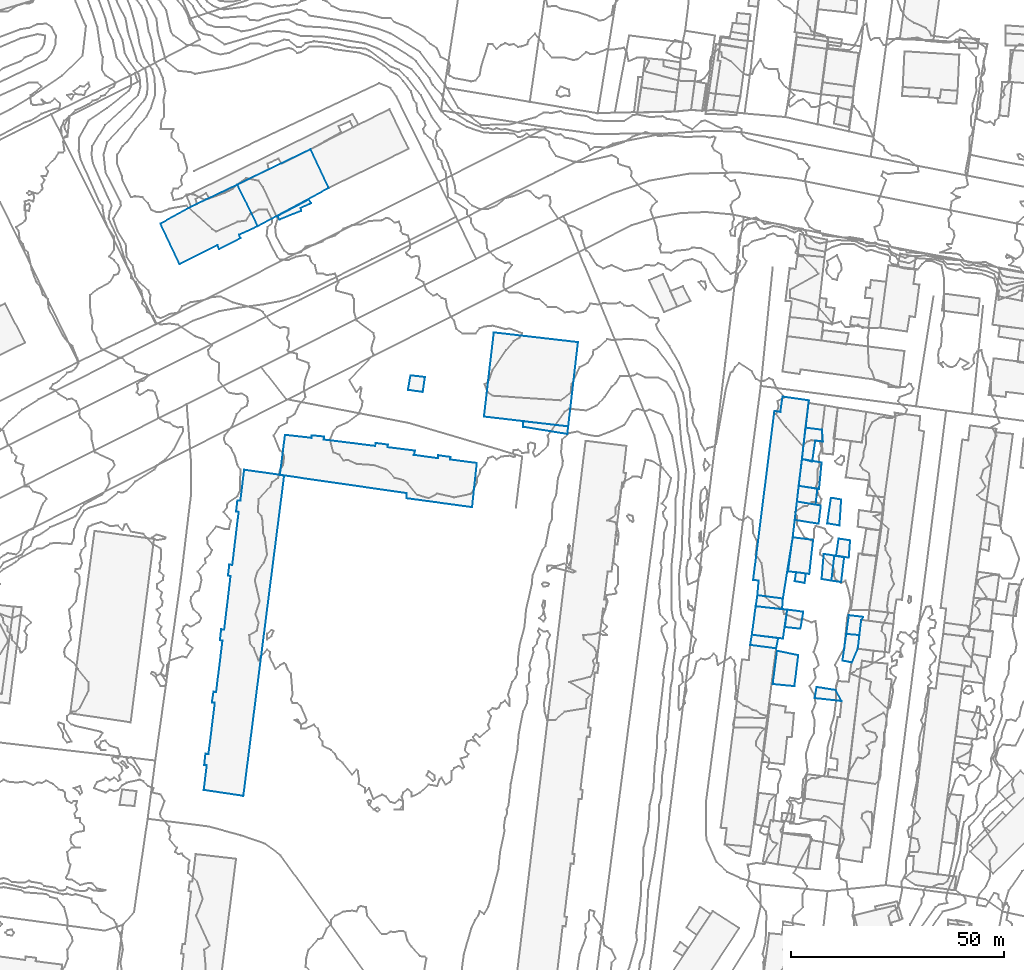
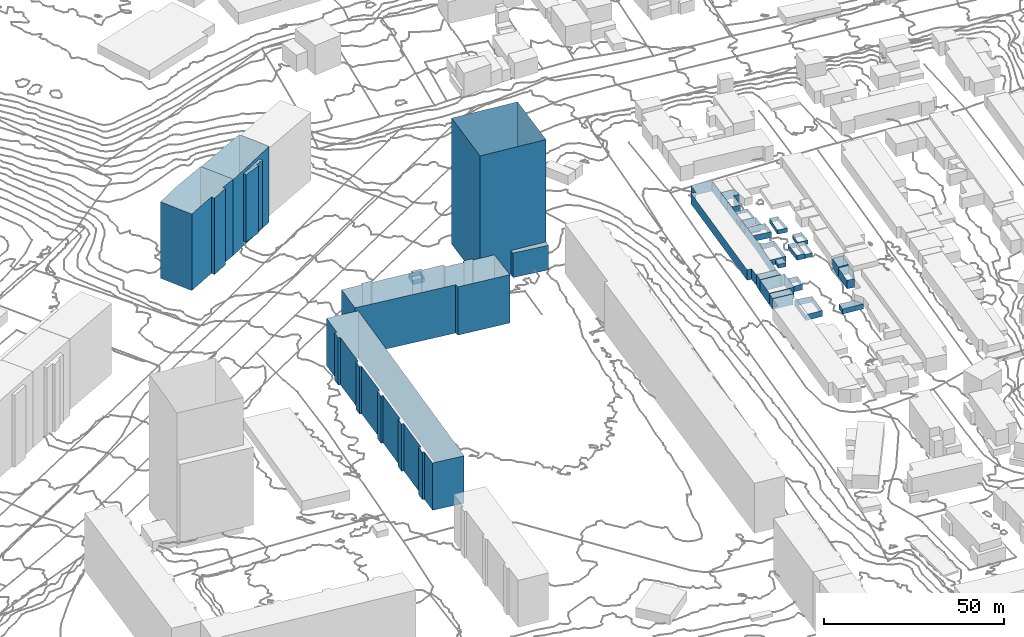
# Not in any storey, part 60 of 419: 27 walls.
"""IFC2X3 model written with IfcOpenShell, lengths in metres."""

from ifc_helpers import new_model, si_unit, frame, origin_with_axes, place, context, subcontext, project, faceted_brep, element, save


model = new_model("IFC2X3")

# Units and contexts
model_context = context("Model", 3, precision=1e-05, world=origin_with_axes())
body_context = subcontext(model_context, "Body", "Model", "MODEL_VIEW")
ifc_project = project(units=[si_unit("AREAUNIT", "SQUARE_METRE"), si_unit("LENGTHUNIT", "METRE")], contexts=[model_context])

# Walls
wall_1_placement = place(None, frame((496.0920204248, 787.9976909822, 36.4690006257), z_axis=(0.0, 0.0, 1.0), x_axis=(1.0, 0.0, 0.0)))
element("IfcWall", 1, at=wall_1_placement, Name="Mur 0", context=body_context, shape_type="Brep", body=[
    faceted_brep([(0.0, 0.0, 1.1309993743), (0.8, 6.3000000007, 1.1309993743), (0.0, 0.0, 0.0), (0.8, 6.3000000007, 0.0), (4.8, -0.6999999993, 1.1309993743), (4.8, -0.6999999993, 0.0), (5.4, 5.5, 1.1309993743), (5.4, 5.5, 0.0)], [[[0, 1, 2]], [[2, 1, 3]], [[4, 0, 5]], [[5, 0, 2]], [[1, 6, 3]], [[3, 6, 7]], [[6, 4, 7]], [[7, 4, 5]]]),
])
wall_2_placement = place(None, frame((373.5920204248, 851.4976909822, 36.4020008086), z_axis=(0.0, 0.0, 1.0), x_axis=(1.0, 0.0, 0.0)))
element("IfcWall", 2, at=wall_2_placement, Name="Mur 0", context=body_context, shape_type="Brep", body=[
    faceted_brep([(0.0, 0.0, 22.7979991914), (7.3, 3.9000000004, 22.7979991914), (0.0, 0.0, 0.0), (7.3, 3.9000000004, 0.0), (0.4, -0.7999999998, 22.7979991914), (0.4, -0.7999999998, 0.0), (5.5, 1.2000000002, 22.7979991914), (5.5, 1.2000000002, 0.0), (5.4, 1.9000000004, 22.7979991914), (5.4, 1.9000000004, 0.0), (7.8, 3.0, 22.7979991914), (7.8, 3.0, 0.0)], [[[0, 1, 2]], [[2, 1, 3]], [[4, 0, 5]], [[5, 0, 2]], [[6, 4, 7]], [[7, 4, 5]], [[8, 6, 9]], [[9, 6, 7]], [[1, 10, 3]], [[3, 10, 11]], [[10, 8, 11]], [[11, 8, 9]]]),
])
wall_3_placement = place(None, frame((502.7920204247, 779.1976909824, 37.2367999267), z_axis=(0.0, 0.0, 1.0), x_axis=(1.0, 0.0, 0.0)))
element("IfcWall", 3, at=wall_3_placement, Name="Mur 0", context=body_context, shape_type="Brep", body=[
    faceted_brep([(0.0, 0.0, 1.4632000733), (0.9, 6.0, 1.4632000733), (0.0, 0.0, 0.0), (0.9, 6.0, 0.0), (2.9, -0.5, 1.4632000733), (2.9, -0.5, 0.0), (3.3, 5.6000000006, 1.4632000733), (3.3, 5.6000000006, 0.0)], [[[0, 1, 2]], [[2, 1, 3]], [[4, 0, 5]], [[5, 0, 2]], [[1, 6, 3]], [[3, 6, 7]], [[6, 4, 7]], [[7, 4, 5]]]),
])
wall_4_placement = place(None, frame((503.7920204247, 765.6976909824, 36.9349994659), z_axis=(0.0, 0.0, 1.0), x_axis=(1.0, 0.0, 0.0)))
element("IfcWall", 4, at=wall_4_placement, Name="Mur 0", context=body_context, shape_type="Brep", body=[
    faceted_brep([(0.0, 0.0, 1.2650005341), (0.7000000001, 5.9000000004, 1.2650005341), (0.0, 0.0, 0.0), (0.7000000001, 5.9000000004, 0.0), (2.3, -0.2999999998, 1.2650005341), (2.3, -0.2999999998, 0.0), (3.0, 5.5, 1.2650005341), (3.0, 5.5, 0.0)], [[[0, 1, 2]], [[2, 1, 3]], [[4, 0, 5]], [[5, 0, 2]], [[1, 6, 3]], [[3, 6, 7]], [[6, 4, 7]], [[7, 4, 5]]]),
])
wall_5_placement = place(None, frame((495.6920204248, 784.2976909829, 36.4690006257), z_axis=(0.0, 0.0, 1.0), x_axis=(1.0, 0.0, 0.0)))
element("IfcWall", 5, at=wall_5_placement, Name="Mur 0", context=body_context, shape_type="Brep", body=[
    faceted_brep([(0.0, 0.0, 2.4309993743), (0.4, 3.6999999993, 2.4309993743), (0.0, 0.0, 0.0), (0.4, 3.6999999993, 0.0), (4.4, -0.7000000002, 2.4309993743), (4.4, -0.7000000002, 0.0), (4.8, 3.0, 2.4309993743), (4.8, 3.0, 0.0)], [[[0, 1, 2]], [[2, 1, 3]], [[4, 0, 5]], [[5, 0, 2]], [[1, 6, 3]], [[3, 6, 7]], [[6, 4, 7]], [[7, 4, 5]]]),
])
wall_6_placement = place(None, frame((507.2920204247, 753.1976909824, 37.0859994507), z_axis=(0.0, 0.0, 1.0), x_axis=(1.0, 0.0, 0.0)))
element("IfcWall", 6, at=wall_6_placement, Name="Mur 0", context=body_context, shape_type="Brep", body=[
    faceted_brep([(4.0, 4.0, 3.3140005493), (3.5, 3.2999999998, 3.3140005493), (4.0, 4.0, 0.0), (3.5, 3.2999999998, 0.0), (0.6000000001, 4.4000000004, 3.3140005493), (0.6000000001, 4.4000000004, 0.0), (0.0, 0.0, 3.3140005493), (0.0, 0.0, 0.0), (3.1000000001, -0.2999999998, 3.3140005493), (3.1000000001, -0.2999999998, 0.0)], [[[0, 1, 2]], [[2, 1, 3]], [[4, 0, 5]], [[5, 0, 2]], [[6, 4, 7]], [[7, 4, 5]], [[1, 8, 3]], [[3, 8, 9]], [[8, 6, 9]], [[9, 6, 7]]]),
])
wall_7_placement = place(None, frame((492.8920204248, 754.7976909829, 35.7219993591), z_axis=(0.0, 0.0, 1.0), x_axis=(1.0, 0.0, 0.0)))
element("IfcWall", 7, at=wall_7_placement, Name="Mur 0", context=body_context, shape_type="Brep", body=[
    faceted_brep([(3.6, -0.4000000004, 1.8780006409), (0.0, 0.0, 1.8780006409), (3.6, -0.4000000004, 0.0), (0.0, 0.0, 0.0), (4.2999999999, 3.5999999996, 1.8780006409), (4.2999999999, 3.5999999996, 0.0), (0.5, 4.0999999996, 1.8780006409), (0.5, 4.0999999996, 0.0)], [[[0, 1, 2]], [[2, 1, 3]], [[4, 0, 5]], [[5, 0, 2]], [[1, 6, 3]], [[3, 6, 7]], [[6, 4, 7]], [[7, 4, 5]]]),
])
wall_8_placement = place(None, frame((495.1920204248, 779.9976909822, 36.8950008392), z_axis=(0.0, 0.0, 1.0), x_axis=(1.0, 0.0, 0.0)))
element("IfcWall", 8, at=wall_8_placement, Name="Mur 0", context=body_context, shape_type="Brep", body=[
    faceted_brep([(0.0, 0.0, 2.0049991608), (0.5, 4.3000000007, 2.0049991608), (0.0, 0.0, 0.0), (0.5, 4.3000000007, 0.0), (5.6, -0.8999999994, 2.0049991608), (5.6, -0.8999999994, 0.0), (6.1, 3.4000000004, 2.0049991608), (6.1, 3.4000000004, 0.0)], [[[0, 1, 2]], [[2, 1, 3]], [[4, 0, 5]], [[5, 0, 2]], [[1, 6, 3]], [[3, 6, 7]], [[6, 4, 7]], [[7, 4, 5]]]),
])
wall_9_placement = place(None, frame((495.1920204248, 765.5976909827, 36.6363998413), z_axis=(0.0, 0.0, 1.0), x_axis=(1.0, 0.0, 0.0)))
element("IfcWall", 9, at=wall_9_placement, Name="Mur 0", context=body_context, shape_type="Brep", body=[
    faceted_brep([(0.0, 0.0, 1.3636001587), (0.3, 2.0999999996, 1.3636001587), (0.0, 0.0, 0.0), (0.3, 2.0999999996, 0.0), (2.3, -0.4000000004, 1.3636001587), (2.3, -0.4000000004, 0.0), (2.6, 1.7999999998, 1.3636001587), (2.6, 1.7999999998, 0.0)], [[[0, 1, 2]], [[2, 1, 3]], [[4, 0, 5]], [[5, 0, 2]], [[1, 6, 3]], [[3, 6, 7]], [[6, 4, 7]], [[7, 4, 5]]]),
])
wall_10_placement = place(None, frame((485.9920204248, 759.6976909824, 35.5533998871), z_axis=(0.0, 0.0, 1.0), x_axis=(1.0, 0.0, 0.0)))
element("IfcWall", 10, at=wall_10_placement, Name="Mur 0", context=body_context, shape_type="Brep", body=[
    faceted_brep([(6.2, -0.7000000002, 4.0466001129), (0.0, 0.0, 4.0466001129), (6.2, -0.7000000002, 0.0), (0.0, 0.0, 0.0), (6.4, 1.7999999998, 4.0466001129), (6.4, 1.7999999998, 0.0), (0.4, 2.6000000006, 4.0466001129), (0.4, 2.6000000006, 0.0)], [[[0, 1, 2]], [[2, 1, 3]], [[4, 0, 5]], [[5, 0, 2]], [[1, 6, 3]], [[3, 6, 7]], [[6, 4, 7]], [[7, 4, 5]]]),
])
wall_11_placement = place(None, frame((404.1920204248, 810.5976909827, 35.6151997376), z_axis=(0.0, 0.0, 1.0), x_axis=(1.0, 0.0, 0.0)))
element("IfcWall", 11, at=wall_11_placement, Name="Mur 0", context=body_context, shape_type="Brep", body=[
    faceted_brep([(3.5, -0.5, 1.5848002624), (0.0, 0.0, 1.5848002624), (3.5, -0.5, 0.0), (0.0, 0.0, 0.0), (4.0, 3.0, 1.5848002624), (4.0, 3.0, 0.0), (0.6, 3.3999999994, 1.5848002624), (0.6, 3.3999999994, 0.0)], [[[0, 1, 2]], [[2, 1, 3]], [[4, 0, 5]], [[5, 0, 2]], [[1, 6, 3]], [[3, 6, 7]], [[6, 4, 7]], [[7, 4, 5]]]),
])
wall_12_placement = place(None, frame((496.8920204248, 794.2976909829, 36.5808003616), z_axis=(0.0, 0.0, 1.0), x_axis=(1.0, 0.0, 0.0)))
element("IfcWall", 12, at=wall_12_placement, Name="Mur 0", context=body_context, shape_type="Brep", body=[
    faceted_brep([(0.0, 0.0, 2.9191996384), (0.7999999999, 7.3999999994, 2.9191996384), (0.0, 0.0, 0.0), (0.7999999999, 7.3999999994, 0.0), (2.3999999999, -0.6000000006, 2.9191996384), (2.3999999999, -0.6000000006, 0.0), (3.1, 4.3999999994, 2.9191996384), (3.1, 4.3999999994, 0.0), (4.8999999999, 4.0999999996, 2.9191996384), (4.8999999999, 4.0999999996, 0.0), (4.7, 6.8999999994, 2.9191996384), (4.7, 6.8999999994, 0.0)], [[[0, 1, 2]], [[2, 1, 3]], [[4, 0, 5]], [[5, 0, 2]], [[6, 4, 7]], [[7, 4, 5]], [[8, 6, 9]], [[9, 6, 7]], [[1, 10, 3]], [[3, 10, 11]], [[10, 8, 11]], [[11, 8, 9]]]),
])
wall_13_placement = place(None, frame((499.8920204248, 738.0976909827, 36.1509001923), z_axis=(0.0, 0.0, 1.0), x_axis=(1.0, 0.0, 0.0)))
element("IfcWall", 13, at=wall_13_placement, Name="Mur 0", context=body_context, shape_type="Brep", body=[
    faceted_brep([(0.3999999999, 2.5999999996, 1.7490998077), (4.8999999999, 1.8999999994, 1.7490998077), (0.3999999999, 2.5999999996, 0.0), (4.8999999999, 1.8999999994, 0.0), (0.0, 0.0, 1.7490998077), (0.0, 0.0, 0.0), (6.2999999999, -0.7000000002, 1.7490998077), (6.2999999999, -0.7000000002, 0.0)], [[[0, 1, 2]], [[2, 1, 3]], [[4, 0, 5]], [[5, 0, 2]], [[1, 6, 3]], [[3, 6, 7]], [[6, 4, 7]], [[7, 4, 5]]]),
])
wall_14_placement = place(None, frame((431.2920204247, 801.8976909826, 33.842800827), z_axis=(0.0, 0.0, 1.0), x_axis=(1.0, 0.0, 0.0)))
element("IfcWall", 14, at=wall_14_placement, Name="Mur 0", context=body_context, shape_type="Brep", body=[
    faceted_brep([(0.0, 1.2999999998, 8.357199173), (10.6000000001, 0.0999999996, 8.357199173), (0.0, 1.2999999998, 0.0), (10.6000000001, 0.0999999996, 0.0), (0.0, 0.0, 8.357199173), (0.0, 0.0, 0.0), (10.4, -1.7000000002, 8.357199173), (10.4, -1.7000000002, 0.0)], [[[0, 1, 2]], [[2, 1, 3]], [[4, 0, 5]], [[5, 0, 2]], [[1, 6, 3]], [[3, 6, 7]], [[6, 4, 7]], [[7, 4, 5]]]),
])
wall_15_placement = place(None, frame((493.5920204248, 767.8976909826, 36.6200008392), z_axis=(0.0, 0.0, 1.0), x_axis=(1.0, 0.0, 0.0)))
element("IfcWall", 15, at=wall_15_placement, Name="Mur 0", context=body_context, shape_type="Brep", body=[
    faceted_brep([(5.0, -0.5999999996, 1.8799991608), (0.0, 0.0, 1.8799991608), (5.0, -0.5999999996, 0.0), (0.0, 0.0, 0.0), (5.9, 7.4000000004, 1.8799991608), (5.9, 7.4000000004, 0.0), (1.1, 8.0, 1.8799991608), (1.1, 8.0, 0.0)], [[[0, 1, 2]], [[2, 1, 3]], [[4, 0, 5]], [[5, 0, 2]], [[1, 6, 3]], [[3, 6, 7]], [[6, 4, 7]], [[7, 4, 5]]]),
])
wall_16_placement = place(None, frame((501.4920204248, 766.0976909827, 36.8341002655), z_axis=(0.0, 0.0, 1.0), x_axis=(1.0, 0.0, 0.0)))
element("IfcWall", 16, at=wall_16_placement, Name="Mur 0", context=body_context, shape_type="Brep", body=[
    faceted_brep([(0.5, 5.8999999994, 1.6658997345), (3.0, 5.5, 1.6658997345), (0.5, 5.8999999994, 0.0), (3.0, 5.5, 0.0), (0.0, 0.0, 1.6658997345), (0.0, 0.0, 0.0), (2.2999999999, -0.4000000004, 1.6658997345), (2.2999999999, -0.4000000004, 0.0)], [[[0, 1, 2]], [[2, 1, 3]], [[4, 0, 5]], [[5, 0, 2]], [[1, 6, 3]], [[3, 6, 7]], [[6, 4, 7]], [[7, 4, 5]]]),
])
wall_17_placement = place(None, frame((504.8920204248, 771.5976909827, 37.0406004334), z_axis=(0.0, 0.0, 1.0), x_axis=(1.0, 0.0, 0.0)))
element("IfcWall", 17, at=wall_17_placement, Name="Mur 0", context=body_context, shape_type="Brep", body=[
    faceted_brep([(3.0, -0.5, 1.3593995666), (0.0, 0.0, 1.3593995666), (3.0, -0.5, 0.0), (0.0, 0.0, 0.0), (3.2999999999, 3.5999999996, 1.3593995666), (3.2999999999, 3.5999999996, 0.0), (0.6, 4.0, 1.3593995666), (0.6, 4.0, 0.0)], [[[0, 1, 2]], [[2, 1, 3]], [[4, 0, 5]], [[5, 0, 2]], [[1, 6, 3]], [[3, 6, 7]], [[6, 4, 7]], [[7, 4, 5]]]),
])
wall_18_placement = place(None, frame((506.3920204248, 746.8976909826, 37.0859994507), z_axis=(0.0, 0.0, 1.0), x_axis=(1.0, 0.0, 0.0)))
element("IfcWall", 18, at=wall_18_placement, Name="Mur 0", context=body_context, shape_type="Brep", body=[
    faceted_brep([(4.0, 6.0, 2.9140005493), (3.6, 2.7999999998, 2.9140005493), (4.0, 6.0, 0.0), (3.6, 2.7999999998, 0.0), (0.8999999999, 6.2999999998, 2.9140005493), (0.8999999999, 6.2999999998, 0.0), (0.0, 0.0, 2.9140005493), (0.0, 0.0, 0.0), (2.2, -0.4000000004, 2.9140005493), (2.2, -0.4000000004, 0.0)], [[[0, 1, 2]], [[2, 1, 3]], [[4, 0, 5]], [[5, 0, 2]], [[6, 4, 7]], [[7, 4, 5]], [[1, 8, 3]], [[3, 8, 9]], [[8, 6, 9]], [[9, 6, 7]]]),
])
wall_19_placement = place(None, frame((489.9920204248, 741.3976909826, 35.3760009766), z_axis=(0.0, 0.0, 1.0), x_axis=(1.0, 0.0, 0.0)))
element("IfcWall", 19, at=wall_19_placement, Name="Mur 0", context=body_context, shape_type="Brep", body=[
    faceted_brep([(0.0, 0.0, 2.0239990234), (1.0, 7.7999999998, 2.0239990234), (0.0, 0.0, 0.0), (1.0, 7.7999999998, 0.0), (5.1, -0.5, 2.0239990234), (5.1, -0.5, 0.0), (6.0, 6.7999999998, 2.0239990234), (6.0, 6.7999999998, 0.0)], [[[0, 1, 2]], [[2, 1, 3]], [[4, 0, 5]], [[5, 0, 2]], [[1, 6, 3]], [[3, 6, 7]], [[6, 4, 7]], [[7, 4, 5]]]),
])
wall_20_placement = place(None, frame((484.6920204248, 750.5976909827, 35.4380004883), z_axis=(0.0, 0.0, 1.0), x_axis=(1.0, 0.0, 0.0)))
element("IfcWall", 20, at=wall_20_placement, Name="Mur 0", context=body_context, shape_type="Brep", body=[
    faceted_brep([(6.1, -0.7999999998, 3.7619995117), (0.0, 0.0, 3.7619995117), (6.1, -0.7999999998, 0.0), (0.0, 0.0, 0.0), (6.6, 1.5999999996, 3.7619995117), (6.6, 1.5999999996, 0.0), (0.4, 2.3999999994, 3.7619995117), (0.4, 2.3999999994, 0.0)], [[[0, 1, 2]], [[2, 1, 3]], [[4, 0, 5]], [[5, 0, 2]], [[1, 6, 3]], [[3, 6, 7]], [[6, 4, 7]], [[7, 4, 5]]]),
])
wall_21_placement = place(None, frame((364.0920204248, 858.8976909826, 34.5357012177), z_axis=(0.0, 0.0, 1.0), x_axis=(1.0, 0.0, 0.0)))
element("IfcWall", 21, at=wall_21_placement, Name="Mur 0", context=body_context, shape_type="Brep", body=[
    faceted_brep([(17.2, 8.2999999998, 25.6642987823), (21.5, -0.7999999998, 25.6642987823), (17.2, 8.2999999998, 0.0), (21.5, -0.7999999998, 0.0), (0.0, 0.0, 25.6642987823), (0.0, 0.0, 0.0), (4.8, -9.7999999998, 25.6642987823), (4.8, -9.7999999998, 0.0)], [[[0, 1, 2]], [[2, 1, 3]], [[4, 0, 5]], [[5, 0, 2]], [[1, 6, 3]], [[3, 6, 7]], [[6, 4, 7]], [[7, 4, 5]]]),
])
wall_22_placement = place(None, frame((374.0920204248, 790.5976909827, 34.1350006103), z_axis=(0.0, 0.0, 1.0), x_axis=(1.0, 0.0, 0.0)))
element("IfcWall", 22, at=wall_22_placement, Name="Mur 0", context=body_context, shape_type="Brep", body=[
    faceted_brep([(29.8, -4.2999999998, 16.3649993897), (0.0, 0.0, 16.3649993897), (29.8, -4.2999999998, 0.0), (0.0, 0.0, 0.0), (29.8, -5.5, 16.3649993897), (29.8, -5.5, 0.0), (45.2, -7.6000000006, 16.3649993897), (45.2, -7.6000000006, 0.0), (46.3, 2.7999999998, 16.3649993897), (46.3, 2.7999999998, 0.0), (40.0, 3.5999999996, 16.3649993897), (40.0, 3.5999999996, 0.0), (40.1, 4.2000000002, 16.3649993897), (40.1, 4.2000000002, 0.0), (37.2, 4.5999999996, 16.3649993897), (37.2, 4.5999999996, 0.0), (37.2, 3.8999999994, 16.3649993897), (37.2, 3.8999999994, 0.0), (31.5, 4.7000000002, 16.3649993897), (31.5, 4.7000000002, 0.0), (31.8, 5.7000000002, 16.3649993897), (31.8, 5.7000000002, 0.0), (25.3, 6.5, 16.3649993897), (25.3, 6.5, 0.0), (25.4, 7.0999999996, 16.3649993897), (25.4, 7.0999999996, 0.0), (22.5, 7.5, 16.3649993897), (22.5, 7.5, 0.0), (22.4, 6.7999999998, 16.3649993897), (22.4, 6.7999999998, 0.0), (10.3, 8.2999999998, 16.3649993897), (10.3, 8.2999999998, 0.0), (10.4, 9.0, 16.3649993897), (10.4, 9.0, 0.0), (7.5, 9.2999999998, 16.3649993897), (7.5, 9.2999999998, 0.0), (7.4, 8.7000000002, 16.3649993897), (7.4, 8.7000000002, 0.0), (1.2, 9.3999999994, 16.3649993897), (1.2, 9.3999999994, 0.0)], [[[0, 1, 2]], [[2, 1, 3]], [[4, 0, 5]], [[5, 0, 2]], [[6, 4, 7]], [[7, 4, 5]], [[8, 6, 9]], [[9, 6, 7]], [[10, 8, 11]], [[11, 8, 9]], [[12, 10, 13]], [[13, 10, 11]], [[14, 12, 15]], [[15, 12, 13]], [[16, 14, 17]], [[17, 14, 15]], [[18, 16, 19]], [[19, 16, 17]], [[20, 18, 21]], [[21, 18, 19]], [[22, 20, 23]], [[23, 20, 21]], [[24, 22, 25]], [[25, 22, 23]], [[26, 24, 27]], [[27, 24, 25]], [[28, 26, 29]], [[29, 26, 27]], [[30, 28, 31]], [[31, 28, 29]], [[32, 30, 33]], [[33, 30, 31]], [[34, 32, 35]], [[35, 32, 33]], [[36, 34, 37]], [[37, 34, 35]], [[1, 38, 3]], [[3, 38, 39]], [[38, 36, 39]], [[39, 36, 37]]]),
])
wall_23_placement = place(None, frame((422.0920204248, 804.2976909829, 34.1403998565), z_axis=(0.0, 0.0, 1.0), x_axis=(1.0, 0.0, 0.0)))
element("IfcWall", 23, at=wall_23_placement, Name="Mur 0", context=body_context, shape_type="Brep", body=[
    faceted_brep([(22.1, 17.5, 42.6596001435), (19.8, -2.3000000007, 42.6596001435), (22.1, 17.5, 0.0), (19.8, -2.3000000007, 0.0), (2.3, 19.7999999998, 42.6596001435), (2.3, 19.7999999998, 0.0), (0.0, 0.0, 42.6596001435), (0.0, 0.0, 0.0)], [[[0, 1, 2]], [[2, 1, 3]], [[4, 0, 5]], [[5, 0, 2]], [[1, 6, 3]], [[3, 6, 7]], [[6, 4, 7]], [[7, 4, 5]]]),
])
wall_24_placement = place(None, frame((356.1920204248, 716.4976909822, 33.1469994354), z_axis=(0.0, 0.0, 1.0), x_axis=(1.0, 0.0, 0.0)))
element("IfcWall", 24, at=wall_24_placement, Name="Mur 0", context=body_context, shape_type="Brep", body=[
    faceted_brep([(9.5, 75.3000000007, 16.0530005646), (17.9, 74.1000000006, 16.0530005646), (9.5, 75.3000000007, 0.0), (17.9, 74.1000000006, 0.0), (8.6, 68.0, 16.0530005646), (8.6, 68.0, 0.0), (7.9, 68.0, 16.0530005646), (7.9, 68.0, 0.0), (7.6, 65.5, 16.0530005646), (7.6, 65.5, 0.0), (8.2000000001, 65.4000000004, 16.0530005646), (8.2000000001, 65.4000000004, 0.0), (6.7000000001, 52.9000000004, 16.0530005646), (6.7000000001, 52.9000000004, 0.0), (6.0, 53.0, 16.0530005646), (6.0, 53.0, 0.0), (5.7000000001, 50.4000000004, 16.0530005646), (5.7000000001, 50.4000000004, 0.0), (6.3, 50.3000000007, 16.0530005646), (6.3, 50.3000000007, 0.0), (4.8, 37.7000000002, 16.0530005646), (4.8, 37.7000000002, 0.0), (4.1, 37.8000000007, 16.0530005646), (4.1, 37.8000000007, 0.0), (3.8, 35.2000000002, 16.0530005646), (3.8, 35.2000000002, 0.0), (4.4, 35.1000000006, 16.0530005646), (4.4, 35.1000000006, 0.0), (2.9, 23.0, 16.0530005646), (2.9, 23.0, 0.0), (2.3, 23.1000000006, 16.0530005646), (2.3, 23.1000000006, 0.0), (1.9, 20.6000000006, 16.0530005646), (1.9, 20.6000000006, 0.0), (2.6, 20.5, 16.0530005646), (2.6, 20.5, 0.0), (1.1, 8.4000000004, 16.0530005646), (1.1, 8.4000000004, 0.0), (0.4, 8.5, 16.0530005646), (0.4, 8.5, 0.0), (0.1, 5.9000000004, 16.0530005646), (0.1, 5.9000000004, 0.0), (0.7000000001, 5.8000000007, 16.0530005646), (0.7000000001, 5.8000000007, 0.0), (0.0, 0.0, 16.0530005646), (0.0, 0.0, 0.0), (9.3, -1.3999999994, 16.0530005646), (9.3, -1.3999999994, 0.0), (18.9, 73.9000000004, 16.0530005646), (18.9, 73.9000000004, 0.0)], [[[0, 1, 2]], [[2, 1, 3]], [[4, 0, 5]], [[5, 0, 2]], [[6, 4, 7]], [[7, 4, 5]], [[8, 6, 9]], [[9, 6, 7]], [[10, 8, 11]], [[11, 8, 9]], [[12, 10, 13]], [[13, 10, 11]], [[14, 12, 15]], [[15, 12, 13]], [[16, 14, 17]], [[17, 14, 15]], [[18, 16, 19]], [[19, 16, 17]], [[20, 18, 21]], [[21, 18, 19]], [[22, 20, 23]], [[23, 20, 21]], [[24, 22, 25]], [[25, 22, 23]], [[26, 24, 27]], [[27, 24, 25]], [[28, 26, 29]], [[29, 26, 27]], [[30, 28, 31]], [[31, 28, 29]], [[32, 30, 33]], [[33, 30, 31]], [[34, 32, 35]], [[35, 32, 33]], [[36, 34, 37]], [[37, 34, 35]], [[38, 36, 39]], [[39, 36, 37]], [[40, 38, 41]], [[41, 38, 39]], [[42, 40, 43]], [[43, 40, 41]], [[44, 42, 45]], [[45, 42, 43]], [[46, 44, 47]], [[47, 44, 45]], [[1, 48, 3]], [[3, 48, 49]], [[48, 46, 49]], [[49, 46, 47]]]),
])
wall_25_placement = place(None, frame((345.9920204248, 849.6976909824, 34.4988005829), z_axis=(0.0, 0.0, 1.0), x_axis=(1.0, 0.0, 0.0)))
element("IfcWall", 25, at=wall_25_placement, Name="Mur 0", context=body_context, shape_type="Brep", body=[
    faceted_brep([(22.9, -0.5999999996, 25.9011994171), (18.5, -2.5999999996, 25.9011994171), (22.9, -0.5999999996, 0.0), (18.5, -2.5999999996, 0.0), (18.1, 9.2000000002, 25.9011994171), (18.1, 9.2000000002, 0.0), (7.2, 4.0, 25.9011994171), (7.2, 4.0, 0.0), (0.0, 0.0, 25.9011994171), (0.0, 0.0, 0.0), (4.5, -9.5, 25.9011994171), (4.5, -9.5, 0.0), (13.4, -5.0, 25.9011994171), (13.4, -5.0, 0.0), (13.7999999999, -6.0, 25.9011994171), (13.7999999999, -6.0, 0.0), (18.7999999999, -3.3999999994, 25.9011994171), (18.7999999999, -3.3999999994, 0.0)], [[[0, 1, 2]], [[2, 1, 3]], [[4, 0, 5]], [[5, 0, 2]], [[6, 4, 7]], [[7, 4, 5]], [[8, 6, 9]], [[9, 6, 7]], [[10, 8, 11]], [[11, 8, 9]], [[12, 10, 13]], [[13, 10, 11]], [[14, 12, 15]], [[15, 12, 13]], [[1, 16, 3]], [[3, 16, 17]], [[16, 14, 17]], [[17, 14, 15]]]),
])
wall_26_placement = place(None, frame((485.3920204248, 765.8976909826, 35.8050014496), z_axis=(0.0, 0.0, 1.0), x_axis=(1.0, 0.0, 0.0)))
element("IfcWall", 26, at=wall_26_placement, Name="Mur 0", context=body_context, shape_type="Brep", body=[
    faceted_brep([(7.0, -4.4000000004, 3.5949985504), (1.0, -3.5999999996, 3.5949985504), (7.0, -4.4000000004, 0.0), (1.0, -3.5999999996, 0.0), (9.2999999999, 10.0, 3.5949985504), (9.2999999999, 10.0, 0.0), (13.1, 42.2000000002, 3.5949985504), (13.1, 42.2000000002, 0.0), (6.8999999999, 43.0999999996, 3.5949985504), (6.8999999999, 43.0999999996, 0.0), (6.3999999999, 39.5, 3.5949985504), (6.3999999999, 39.5, 0.0), (5.0, 39.7000000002, 3.5949985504), (5.0, 39.7000000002, 0.0), (0.0, 0.0, 3.5949985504), (0.0, 0.0, 0.0), (1.2999999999, -0.2000000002, 3.5949985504), (1.2999999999, -0.2000000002, 0.0)], [[[0, 1, 2]], [[2, 1, 3]], [[4, 0, 5]], [[5, 0, 2]], [[6, 4, 7]], [[7, 4, 5]], [[8, 6, 9]], [[9, 6, 7]], [[10, 8, 11]], [[11, 8, 9]], [[12, 10, 13]], [[13, 10, 11]], [[14, 12, 15]], [[15, 12, 13]], [[1, 16, 3]], [[3, 16, 17]], [[16, 14, 17]], [[17, 14, 15]]]),
])
wall_27_placement = place(None, frame((485.0920204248, 752.9976909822, 35.4380004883), z_axis=(0.0, 0.0, 1.0), x_axis=(1.0, 0.0, 0.0)))
element("IfcWall", 27, at=wall_27_placement, Name="Mur 0", context=body_context, shape_type="Brep", body=[
    faceted_brep([(7.3, -0.8999999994, 3.9619995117), (0.0, 0.0, 3.9619995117), (7.3, -0.8999999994, 0.0), (0.0, 0.0, 0.0), (8.3, 5.9000000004, 3.9619995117), (8.3, 5.9000000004, 0.0), (0.9, 6.7000000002, 3.9619995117), (0.9, 6.7000000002, 0.0)], [[[0, 1, 2]], [[2, 1, 3]], [[4, 0, 5]], [[5, 0, 2]], [[1, 6, 3]], [[3, 6, 7]], [[6, 4, 7]], [[7, 4, 5]]]),
])

save(model, "model.ifc")
